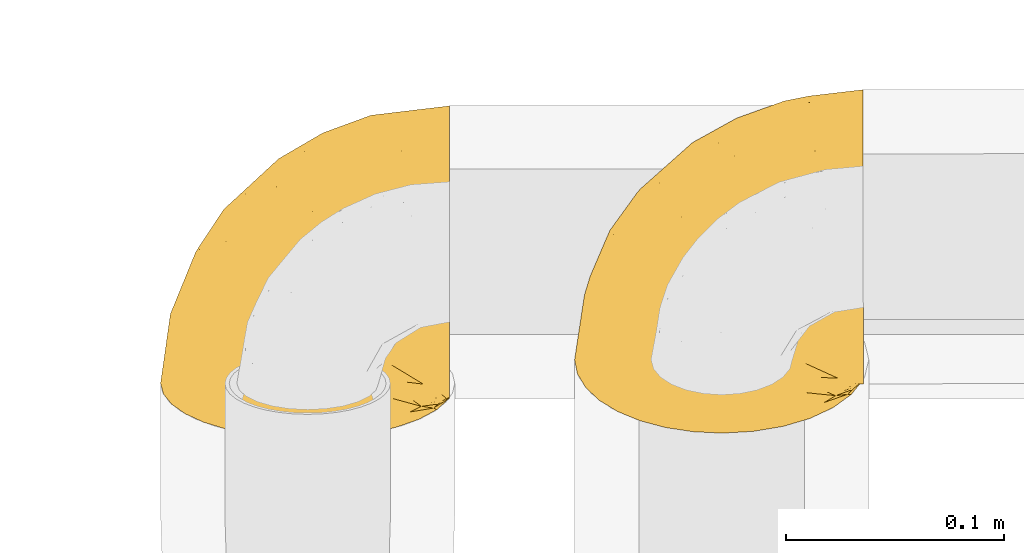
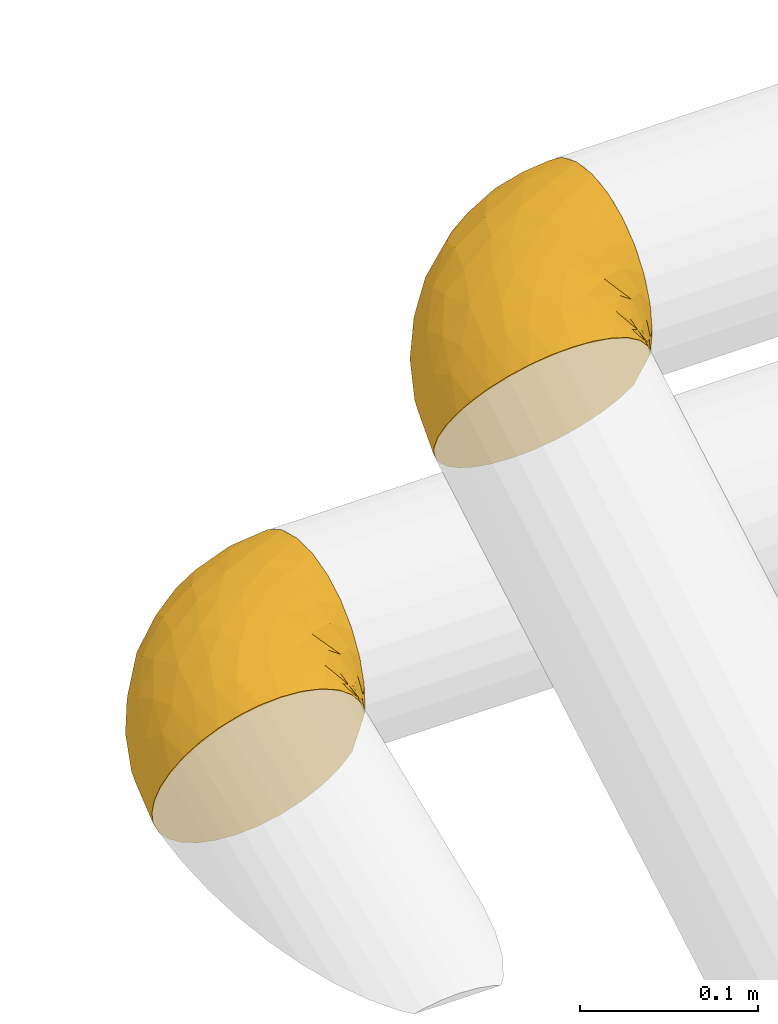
# One storey, part 18 of 156: 2 coverings.
"""IFC2X3 building model written with IfcOpenShell, lengths in millimetres."""

from ifc_helpers import new_model, entity, si_unit, converted_unit, derived_unit, direction, frame, origin_with_axes, place, context, subcontext, project, spatial, open_shell, surface_model, source, transform, mapped, element, save


model = new_model("IFC2X3")

# Units and contexts
model_context = context("Model", 3, precision=0.01, world=frame((0.0, 4.29681676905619e-09, 0.0)), true_north=direction((4.01073788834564e-13, 1.0)))
plan_context = context("Plan", 3, precision=0.01, world=frame((0.0, 4.29681676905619e-09, 0.0)), true_north=direction((4.01073788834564e-13, 1.0)))
body_context = subcontext(model_context, "Body", "Model", "MODEL_VIEW")
ifc_project = project(units=[converted_unit("PLANEANGLEUNIT", "DEGREE", entity("IfcPositiveLengthMeasure", 0.0174532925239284), si_unit("PLANEANGLEUNIT", "RADIAN"), dimensions=[0, 0, 0, 0, 0, 0, 0]), si_unit("AREAUNIT", "SQUARE_METRE"), si_unit("LENGTHUNIT", "METRE", prefix="MILLI"), si_unit("MASSUNIT", "GRAM", prefix="KILO"), si_unit("POWERUNIT", "WATT"), si_unit("PRESSUREUNIT", "PASCAL", prefix="KILO"), si_unit("FORCEUNIT", "NEWTON", prefix="KILO"), si_unit("ELECTRICVOLTAGEUNIT", "VOLT"), si_unit("ELECTRICCURRENTUNIT", "AMPERE"), si_unit("THERMODYNAMICTEMPERATUREUNIT", "DEGREE_CELSIUS"), si_unit("TIMEUNIT", "SECOND"), si_unit("VOLUMEUNIT", "CUBIC_METRE"), derived_unit("LINEARVELOCITYUNIT", [(si_unit("LENGTHUNIT", "METRE"), 1), (si_unit("TIMEUNIT", "SECOND"), -1)]), derived_unit("VOLUMETRICFLOWRATEUNIT", [(si_unit("VOLUMEUNIT", "CUBIC_METRE"), 1), (si_unit("TIMEUNIT", "SECOND"), -1)]), derived_unit("THERMALTRANSMITTANCEUNIT", [(si_unit("POWERUNIT", "WATT"), 1), (si_unit("THERMODYNAMICTEMPERATUREUNIT", "KELVIN"), -1), (si_unit("AREAUNIT", "SQUARE_METRE"), -1)]), derived_unit("SOUNDPRESSUREUNIT", [(si_unit("PRESSUREUNIT", "PASCAL"), 1)])], contexts=[model_context, plan_context])

# Site, building, storey
site_placement = place(None, frame((0.0, -4.29681676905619e-09, 0.0), z_axis=(0.0, 0.0, 1.0), x_axis=(1.0, 0.0, 0.0)))
site = spatial("IfcSite", under=ifc_project, at=site_placement, CompositionType="ELEMENT")
building_placement = place(site_placement, frame((0.0, 4.29681676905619e-09, 0.0), z_axis=(0.0, 0.0, 1.0), x_axis=(1.0, 0.0, 0.0)))
building = spatial("IfcBuilding", under=site, at=building_placement, Name="mc-building", CompositionType="ELEMENT")
storey_placement = place(building_placement, frame((0.0, 0.0, 205200.0), z_axis=(0.0, 0.0, 1.0), x_axis=(1.0, 0.0, 0.0)))
storey = spatial("IfcBuildingStorey", under=building, at=storey_placement, Name="Nivå D + 1,2 m", CompositionType="ELEMENT", Elevation=205200.0)

# Coverings
shared_shape_1 = source(origin_with_axes(), body_context, "Body", "SurfaceModel", [
    surface_model("IfcShellBasedSurfaceModel", [(62.36357, 65.0, 25.82703), (66.2036, 65.0, 13.1656), (47.7349, 65.0, 47.72452), (56.12755, 65.0, 37.49598), (-64.81475, 65.0, -18.84935), (-64.81475, 65.0, 18.84935), (-59.31267, 65.0, 32.22201), (-51.08854, 65.0, 44.11588), (66.20209, 65.0, -13.1732), (67.5, 65.0, 0.0), (-40.52239, 65.0, -53.98321), (-51.09064, 65.0, -44.11345), (-59.31419, 65.0, -32.21921), (-28.09443, 65.0, -61.37551), (-65.0, 64.81475, -18.84935), (-65.0, 57.87557, -34.73714), (-65.0, 47.11836, -48.33333), (-65.0, 33.25277, -58.74099), (-65.0, 17.19351, -65.27353), (-65.0, 33.25277, 58.74099), (-65.0, 0.0, 67.5), (-65.0, 17.19351, 65.27353), (-65.0, -58.45672, -33.75), (-65.0, -17.47029, -65.19999), (-65.0, -33.75, -58.45672), (-65.0, -67.5, 0.0), (-65.0, -47.72971, -47.72971), (-65.0, -65.19999, -17.47029), (-65.0, -33.75, 58.45672), (-65.0, -47.72971, 47.72971), (-65.0, -17.47029, 65.19999), (-65.0, -58.45672, 33.75), (-65.0, -65.19999, 17.47029), (-65.0, 64.81475, 18.84935), (-64.86901, 64.86901, 18.84935), (-64.86901, 64.86901, -18.84935), (-62.35297, 53.22925, -41.88204), (-63.78423, 60.63473, -29.99667), (-59.45918, 54.28289, -41.88204), (-51.69965, 42.79725, -55.00915), (-58.92632, 41.28656, -53.98417), (-64.97489, 64.82515, -18.84935), (-60.99561, 60.00362, -33.50592), (-62.83434, 60.76841, -30.4404), (-64.90176, 64.85544, -18.84935), (-50.86682, 28.04405, -62.52499), (-57.92381, 24.04777, -63.29908), (-50.90167, 14.37918, -66.34141), (-37.08653, 31.39033, -64.04773), (-29.58182, 11.99295, -67.5), (-40.36853, 19.80167, -66.13096), (-55.46376, 1.89688, -67.5), (-54.1914, 53.04137, -46.55035), (-23.48796, 51.53459, -64.03169), (-35.44219, 58.51372, -57.87452), (-14.37712, 65.0, -65.95111), (0.0, 65.0, -67.5), (-1.89688, 55.46376, -67.5), (-19.03806, 19.03806, -67.5), (-28.84083, 40.49015, -64.04563), (-45.93357, 58.13982, -50.54557), (-64.83555, 64.94978, -18.84935), (-43.55475, 44.96694, -57.31565), (-4.94783, 40.12558, -67.5), (-64.85228, 64.9094, -18.84935), (-55.95504, 62.1673, -38.38718), (-59.35288, 60.73167, -34.6609), (-37.17686, 51.38247, -58.29815), (-49.05026, 54.8073, -49.33215), (-11.99295, 29.58182, -67.5), (-64.9345, 64.84188, -18.84935), (-40.12558, 4.94783, -67.5), (-65.0, 0.0, -67.5), (-52.74634, 2.4374, -67.5), (-42.51157, -9.52295, -66.2671), (62.98517, 30.70648, 0.0), (60.34861, 32.11006, -19.59988), (7.28209, 26.69247, -65.37446), (17.51571, 46.37925, -64.59456), (25.45053, 30.47784, -59.53215), (-9.86721, -24.12514, -54.51842), (-12.17277, -41.13061, -41.0914), (-38.26551, -37.66767, -53.55135), (-32.07934, -19.65533, -62.36187), (-9.01246, -1.18966, -63.9192), (38.39188, 36.73619, -52.6938), (30.43395, 48.7077, -59.53215), (-49.4847, -21.90434, -63.359), (28.69165, -28.69165, 0.0), (38.50326, -14.42084, -16.45739), (49.74837, -1.25, 0.0), (25.82703, 65.0, -62.36357), (13.1656, 65.0, -66.2036), (-26.34544, -2.34013, -66.30486), (62.35913, 65.0, -25.83774), (-28.9987, -57.16772, -25.83113), (-40.01142, -50.88785, -41.0914), (-40.23864, -63.93244, -12.73067), (13.27406, -37.00874, -22.67012), (18.34903, -3.39087, -52.18245), (35.48999, 13.46262, -47.52341), (28.03747, -10.89182, -39.04005), (-2.47392, 52.56279, -67.5), (13.31742, 11.06376, -60.42055), (47.72452, 65.0, -47.7349), (56.11983, 65.0, -37.50754), (48.33699, 35.26235, -42.82742), (1.25, -49.74837, 0.0), (55.58243, 33.90777, -31.82524), (47.1962, 10.97433, -31.82591), (10.54857, -30.74404, -36.21718), (1.99991, -27.22627, -46.43081), (-14.75381, -56.30503, -12.67322), (-7.01775, -49.35414, -23.6696), (51.32465, 7.6704, -19.29111), (-30.70648, -62.98517, 0.0), (0.244, 12.31909, -64.81242), (3.6701, -5.45972, -58.66435), (37.49598, 65.0, -56.12755), (36.98055, -9.37937, -28.42458), (48.52829, 33.96524, 42.18547), (51.34601, 20.59434, 31.81466), (57.75615, 44.0433, 31.81466), (-28.34115, -60.77084, 14.13005), (-16.26073, -52.66703, 25.83113), (-42.88385, -60.42696, 25.83113), (37.5083, -13.65738, 20.81995), (22.2387, 22.99208, 59.52614), (16.82988, 43.52884, 64.59175), (5.27267, 25.31169, 65.6474), (35.12366, 13.6505, 47.93511), (15.62004, -0.76277, 55.06473), (25.58961, -9.33201, 42.81638), (-34.31666, -49.51181, 41.0914), (-2.14331, -36.32511, 40.18049), (-17.725, -29.97609, 53.55135), (-5.8464, -51.68872, 14.94009), (14.49533, -38.60032, 15.96281), (39.0394, -2.37839, 32.87761), (-42.65822, -9.03699, 66.36346), (-39.32482, -22.1268, 62.36187), (-52.74634, 2.4374, 67.5), (18.51015, -28.28032, 30.53115), (-42.63776, -38.70783, 53.55135), (52.44199, 9.85636, 19.0918), (61.41574, 36.47263, 19.59063), (39.29703, 37.63428, 52.17338), (37.50754, 65.0, 56.11983), (25.83774, 65.0, 62.35913), (13.1732, 65.0, 66.20209), (28.75854, 40.82432, 59.5265), (-0.80851, -10.86712, 58.08848), (-25.06949, -14.2506, 63.18685), (-6.08758, 12.63645, 66.07007), (-29.58182, 11.99295, 67.5), (-27.583, -2.4399, 66.40218), (-40.12558, 4.94783, 67.5), (-2.47392, 52.56279, 67.5), (-4.94783, 40.12558, 67.5), (8.13231, 9.85971, 62.04196), (4.6081, -20.53967, 50.05704), (-11.99295, 29.58182, 67.5), (-19.03806, 19.03806, 67.5), (-12.13012, -4.71198, 63.64217), (0.0, 65.0, 67.5), (-55.46376, 1.89688, 67.5), (-51.31051, 50.10809, 50.51452), (-58.83063, 56.06256, 40.31262), (-53.07544, 43.62194, 53.98417), (-61.39668, 53.48595, 41.88204), (-59.33203, 41.18634, 53.98417), (-65.0, 47.11836, 48.33333), (-38.67692, 30.21324, 64.02579), (-40.80843, 18.77841, 66.26938), (-53.18292, 27.23963, 62.52499), (-62.39323, 61.71268, 29.30964), (-62.71992, 60.35042, 31.2673), (-24.35909, 37.3903, 65.60842), (-55.876, 57.84764, 41.27918), (-48.33586, 52.86998, 50.85179), (-52.15697, 58.33043, 44.75633), (-65.0, 57.87557, 34.73714), (-50.72259, 13.73618, 66.46323), (-63.72097, 60.14876, 30.95628), (-23.37818, 51.86775, 64.03271), (-1.89688, 55.46376, 67.5), (-14.37401, 65.0, 65.95178), (-38.9734, 49.10623, 58.01476), (-28.09151, 65.0, 61.37685), (-40.51981, 65.0, 53.98514), (-36.16929, 55.0609, 58.01476), (-61.49541, 62.05581, 30.08872), (-64.85228, 64.9094, 18.84935), (-46.94651, 59.30387, 49.33434), (-64.83555, 64.94978, 18.84935), (-57.76525, 62.98421, 35.37213), (-59.8704, 62.17048, 32.53464), (-45.47025, 40.87928, 58.33251), (-64.9094, 64.85228, 18.84935), (-64.94978, 64.83555, 18.84935)], [open_shell([[[0, 1, 2]], [[2, 3, 0]], [[4, 5, 6]], [[6, 7, 4]], [[8, 4, 9]], [[10, 11, 4]], [[12, 4, 11]], [[10, 4, 13]], [[14, 15, 16]], [[16, 17, 18]], [[19, 20, 21]], [[22, 23, 24]], [[23, 22, 25]], [[22, 24, 26]], [[27, 25, 22]], [[28, 25, 29]], [[30, 20, 28]], [[31, 25, 32]], [[25, 31, 29]], [[14, 33, 34]], [[35, 14, 34]], [[5, 4, 34]], [[35, 34, 4]], [[36, 37, 38]], [[39, 40, 38]], [[15, 14, 41]], [[36, 40, 16]], [[42, 43, 44]], [[40, 45, 46]], [[18, 46, 47]], [[48, 49, 50]], [[47, 46, 45]], [[18, 47, 51]], [[38, 52, 39]], [[13, 53, 54]], [[15, 36, 16]], [[55, 56, 57]], [[58, 48, 59]], [[60, 10, 54]], [[10, 60, 11]], [[40, 17, 16]], [[40, 39, 45]], [[61, 4, 12]], [[42, 52, 38]], [[48, 62, 59]], [[63, 53, 57]], [[64, 65, 66]], [[12, 65, 61]], [[55, 57, 53]], [[55, 53, 13]], [[47, 45, 50]], [[53, 67, 54]], [[12, 11, 65]], [[66, 68, 52]], [[39, 48, 45]], [[62, 39, 52]], [[67, 62, 68]], [[41, 37, 15]], [[40, 36, 38]], [[52, 42, 66]], [[62, 52, 68]], [[64, 61, 65]], [[65, 68, 66]], [[59, 67, 53]], [[39, 62, 48]], [[59, 63, 69]], [[37, 41, 70]], [[51, 47, 71]], [[51, 72, 18]], [[50, 45, 48]], [[66, 35, 64]], [[71, 47, 50]], [[43, 38, 37]], [[35, 66, 42]], [[62, 67, 59]], [[60, 54, 67]], [[67, 68, 60]], [[13, 54, 10]], [[68, 65, 60]], [[11, 60, 65]], [[37, 70, 43]], [[15, 37, 36]], [[44, 35, 42]], [[42, 38, 43]], [[43, 70, 44]], [[18, 17, 46]], [[40, 46, 17]], [[49, 48, 58]], [[49, 71, 50]], [[63, 59, 53]], [[69, 58, 59]], [[73, 74, 23]], [[73, 71, 74]], [[8, 75, 76]], [[77, 78, 79]], [[80, 81, 82]], [[80, 83, 84]], [[85, 79, 86]], [[74, 87, 23]], [[88, 89, 90]], [[91, 78, 92]], [[58, 84, 93]], [[94, 8, 76]], [[95, 22, 96]], [[27, 97, 25]], [[89, 88, 98]], [[22, 95, 27]], [[22, 26, 96]], [[24, 82, 26]], [[87, 82, 24]], [[99, 100, 101]], [[56, 92, 102]], [[79, 100, 103]], [[104, 105, 106]], [[85, 104, 106]], [[88, 107, 98]], [[108, 76, 109]], [[86, 78, 91]], [[92, 78, 102]], [[110, 81, 111]], [[112, 97, 95]], [[98, 107, 112]], [[113, 81, 110]], [[90, 89, 114]], [[112, 107, 115]], [[85, 100, 79]], [[114, 75, 90]], [[94, 108, 105]], [[116, 117, 84]], [[8, 9, 75]], [[106, 108, 109]], [[99, 103, 100]], [[77, 63, 78]], [[80, 82, 83]], [[118, 86, 91]], [[96, 82, 81]], [[116, 69, 77]], [[98, 110, 119]], [[76, 114, 109]], [[93, 83, 74]], [[111, 101, 110]], [[77, 103, 116]], [[103, 77, 79]], [[118, 104, 85]], [[78, 86, 79]], [[85, 86, 118]], [[85, 106, 100]], [[106, 109, 100]], [[101, 100, 109]], [[119, 101, 109]], [[101, 119, 110]], [[82, 96, 26]], [[95, 96, 81]], [[23, 72, 73]], [[93, 74, 71]], [[74, 83, 87]], [[93, 71, 49]], [[83, 93, 84]], [[82, 87, 83]], [[24, 23, 87]], [[117, 103, 99]], [[103, 117, 116]], [[97, 112, 115]], [[113, 112, 95]], [[25, 97, 115]], [[95, 97, 27]], [[111, 117, 99]], [[58, 93, 49]], [[80, 84, 117]], [[84, 58, 116]], [[114, 76, 75]], [[81, 113, 95]], [[98, 112, 113]], [[105, 108, 106]], [[94, 76, 108]], [[78, 63, 102]], [[69, 116, 58]], [[69, 63, 77]], [[119, 114, 89]], [[114, 119, 109]], [[98, 119, 89]], [[113, 110, 98]], [[111, 81, 80]], [[117, 111, 80]], [[101, 111, 99]], [[120, 121, 122]], [[25, 115, 123]], [[123, 124, 125]], [[90, 126, 88]], [[127, 128, 129]], [[130, 131, 132]], [[133, 134, 135]], [[136, 137, 124]], [[132, 138, 130]], [[107, 88, 137]], [[139, 30, 140]], [[30, 139, 141]], [[142, 137, 126]], [[143, 140, 28]], [[28, 29, 143]], [[125, 31, 32]], [[130, 138, 121]], [[31, 125, 133]], [[28, 140, 30]], [[88, 126, 137]], [[121, 144, 145]], [[143, 133, 135]], [[120, 2, 146]], [[138, 126, 144]], [[1, 0, 145]], [[2, 147, 146]], [[128, 148, 149]], [[145, 0, 122]], [[9, 1, 75]], [[148, 150, 147]], [[151, 152, 135]], [[31, 133, 29]], [[153, 154, 155]], [[128, 127, 150]], [[156, 139, 155]], [[130, 121, 120]], [[149, 157, 128]], [[144, 75, 145]], [[129, 128, 158]], [[150, 127, 146]], [[75, 1, 145]], [[138, 144, 121]], [[131, 127, 159]], [[3, 122, 0]], [[134, 133, 124]], [[135, 134, 160]], [[142, 132, 134]], [[136, 124, 123]], [[142, 124, 137]], [[160, 132, 131]], [[3, 2, 120]], [[145, 122, 121]], [[120, 122, 3]], [[120, 146, 130]], [[146, 127, 130]], [[131, 130, 127]], [[159, 127, 129]], [[151, 135, 160]], [[153, 161, 162]], [[129, 153, 159]], [[133, 143, 29]], [[140, 143, 135]], [[141, 139, 156]], [[141, 20, 30]], [[155, 152, 163]], [[152, 139, 140]], [[155, 163, 153]], [[126, 90, 144]], [[154, 156, 155]], [[75, 144, 90]], [[142, 126, 138]], [[124, 142, 134]], [[139, 152, 155]], [[135, 152, 140]], [[32, 25, 123]], [[133, 125, 124]], [[32, 123, 125]], [[136, 115, 107]], [[115, 136, 123]], [[107, 137, 136]], [[161, 153, 129]], [[151, 159, 163]], [[153, 162, 154]], [[163, 159, 153]], [[132, 160, 134]], [[151, 160, 131]], [[159, 151, 131]], [[151, 163, 152]], [[147, 150, 146]], [[148, 128, 150]], [[157, 149, 164]], [[157, 158, 128]], [[142, 138, 132]], [[129, 158, 161]], [[21, 20, 165]], [[166, 167, 168]], [[168, 169, 170]], [[170, 171, 19]], [[172, 173, 154]], [[172, 168, 174]], [[167, 175, 176]], [[177, 172, 162]], [[170, 19, 174]], [[178, 179, 180]], [[167, 169, 168]], [[169, 181, 171]], [[174, 182, 173]], [[183, 169, 176]], [[184, 185, 186]], [[187, 180, 179]], [[188, 189, 190]], [[34, 191, 192]], [[177, 184, 187]], [[190, 189, 193]], [[6, 5, 194]], [[184, 177, 158]], [[19, 21, 174]], [[195, 7, 6]], [[186, 185, 164]], [[193, 189, 7]], [[166, 178, 167]], [[187, 184, 190]], [[191, 178, 196]], [[188, 184, 186]], [[182, 165, 156]], [[33, 181, 183]], [[187, 179, 197]], [[168, 170, 174]], [[158, 185, 184]], [[169, 171, 170]], [[177, 187, 197]], [[177, 162, 161]], [[34, 175, 191]], [[175, 178, 191]], [[173, 182, 156]], [[165, 182, 21]], [[21, 182, 174]], [[154, 162, 172]], [[174, 173, 172]], [[173, 156, 154]], [[197, 166, 168]], [[179, 178, 166]], [[168, 172, 197]], [[197, 172, 177]], [[197, 179, 166]], [[180, 187, 193]], [[195, 180, 193]], [[196, 194, 192]], [[7, 195, 193]], [[6, 194, 195]], [[178, 180, 196]], [[180, 195, 196]], [[194, 196, 195]], [[192, 191, 196]], [[175, 167, 178]], [[34, 198, 175]], [[199, 183, 176]], [[176, 175, 198]], [[199, 176, 198]], [[169, 167, 176]], [[33, 183, 199]], [[181, 169, 183]], [[190, 184, 188]], [[193, 187, 190]], [[158, 177, 161]], [[1, 147, 2]], [[56, 13, 4]], [[55, 13, 56]], [[56, 4, 92]], [[23, 25, 28]], [[148, 164, 149]], [[1, 148, 147]], [[186, 148, 1]], [[186, 189, 188]], [[186, 164, 148]], [[189, 186, 7]], [[7, 186, 1]], [[7, 1, 9]], [[94, 4, 8]], [[105, 104, 118]], [[105, 118, 4]], [[94, 105, 4]], [[92, 118, 91]], [[4, 118, 92]], [[9, 4, 7]], [[14, 16, 20]], [[20, 16, 18]], [[181, 20, 171]], [[181, 33, 14]], [[20, 19, 171]], [[14, 20, 181]], [[18, 23, 20]], [[20, 23, 28]], [[23, 18, 72]]])]),
])
covering_1_placement = place(storey_placement, frame((326217.42979, 460512.28647, 4048.81464), z_axis=(0.0, -0.37460689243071, 0.927183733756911), x_axis=(-1.0, 0.0, 0.0)))
element("IfcCovering", 1, at=covering_1_placement, inside=storey, Name="BI10T - Cellegummi 18-32 mm kalde rør", PredefinedType="INSULATION", context=body_context, shape_type="MappedRepresentation", body=[
    mapped(shared_shape_1, transform((0.0, 0.0, 0.0), scale=1.0)),
])
shared_shape_2 = source(origin_with_axes(), body_context, "Body", "SurfaceModel", [
    surface_model("IfcShellBasedSurfaceModel", [(-59.18922, 64.98919, 32.22201), (-64.6913, 64.99965, -18.84935), (-64.6913, 64.99965, 18.84935), (-50.96512, 64.97355, 44.11588), (-14.25065, 64.90376, 65.95178), (0.12333, 64.87643, 67.5), (-27.96812, 64.92983, 61.37685), (-40.3964, 64.95346, 53.98514), (-50.96722, 64.97356, -44.11345), (-59.19075, 64.98919, -32.21921), (-40.39898, 64.95347, -53.98321), (-27.97104, 64.92984, -61.37551), (0.12333, 64.87643, -67.5), (-14.25376, 64.90376, -65.95111), (13.28891, 64.8514, -66.2036), (13.29651, 64.85139, 66.20209), (25.96103, 64.82731, 62.35913), (66.32682, 64.75058, 13.1656), (37.6308, 64.80513, 56.11983), (47.85814, 64.78568, 47.72452), (56.25078, 64.76973, 37.49598), (62.48679, 64.75788, 25.82703), (66.3253, 64.75058, -13.1732), (56.24306, 64.76974, -37.50754), (47.84777, 64.7857, -47.7349), (37.61924, 64.80515, -56.12755), (25.95032, 64.82733, -62.36357), (62.48235, 64.75788, -25.83774), (67.62321, 64.74811, 0.0), (-64.87655, 64.81475, 18.84935), (-64.87655, 64.81475, -18.84935), (-64.87655, 57.87557, -34.73714), (-64.87655, 47.11836, 48.33333), (-64.87655, 33.25277, -58.74099), (-64.87655, 47.11836, -48.33333), (-64.87655, -17.47029, -65.19999), (-64.87655, 57.87557, 34.73714), (-64.87655, 17.19351, 65.27353), (-64.87655, 33.25277, 58.74099), (-64.87655, 0.0, 67.5), (-64.87655, -33.75, 58.45672), (-64.87655, 0.0, -67.5), (-64.87655, 17.19351, -65.27353), (-64.87655, -67.5, 0.0), (-64.87655, -58.45672, -33.75), (-64.87655, -33.75, -58.45672), (-64.87655, -47.72971, -47.72971), (-64.87655, -65.19999, -17.47029), (-64.87655, -47.72971, 47.72971), (-64.87655, -17.47029, 65.19999), (-64.87655, -58.45672, 33.75), (-64.87655, -65.19999, 17.47029), (-64.74568, 64.86888, 18.84935), (-64.74568, 64.86888, -18.84935), (-62.23187, 53.22873, -41.88204), (-63.66126, 60.63243, -30.00087), (-59.33973, 54.28082, -41.88204), (-51.57524, 42.79908, -55.00839), (-58.80311, 41.2865, -53.98417), (-64.85143, 64.82514, -18.84935), (-60.87448, 59.99932, -33.50924), (-62.71252, 60.76981, -30.43646), (-64.7784, 64.85535, -18.84935), (-50.74459, 28.04359, -62.52499), (-57.80711, 24.06197, -63.29347), (-50.79245, 14.38376, -66.33987), (-36.97159, 31.38865, -64.04635), (-29.49449, 11.9652, -67.5), (-40.24526, 19.78821, -66.13336), (-55.33971, 1.89464, -67.5), (-54.08526, 53.03736, -46.5413), (-23.38889, 51.45966, -64.03169), (-35.25608, 58.47961, -57.91561), (-1.78943, 55.34321, -67.5), (-18.95832, 18.99439, -67.5), (-28.83192, 40.51556, -64.00922), (-45.94476, 58.21253, -50.41125), (-64.71217, 64.94946, -18.84935), (-4.85991, 40.03998, -67.5), (-11.90911, 29.51719, -67.5), (-64.72893, 64.90917, -18.84935), (-55.83699, 62.15011, -38.38718), (-59.236, 60.72785, -34.65599), (-37.10461, 51.40242, -58.26615), (-48.94353, 54.78117, -49.33215), (-43.47754, 44.94918, -57.30219), (-64.81111, 64.84182, -18.84935), (-40.03067, 4.93602, -67.5), (-52.62212, 2.43453, -67.5), (-42.40388, -9.53478, -66.26579), (63.05414, 30.50376, 0.0), (60.40989, 31.87403, -19.59988), (7.32434, 26.54965, -65.37567), (17.60402, 46.22421, -64.59456), (25.51012, 30.31097, -59.53215), (-9.71918, -24.11629, -54.51447), (-12.13963, -41.17552, -41.0914), (-38.14291, -37.66789, -53.55135), (-31.95811, -19.65619, -62.36187), (-8.89691, -1.20123, -63.91793), (38.46276, 36.54407, -52.69369), (30.52675, 48.52915, -59.53215), (28.726, -28.78066, 0.0), (1.30072, -49.79032, 0.0), (13.31601, -37.06983, -22.67323), (38.54076, -14.53725, -16.44641), (49.78776, -1.39538, 0.0), (-26.23544, -2.33943, -66.30625), (-28.91467, -57.17933, -25.83113), (-39.94123, -50.89932, -41.0914), (-40.15106, -63.94185, -12.71778), (-49.36695, -21.92019, -63.35363), (18.35044, -3.53933, -52.18245), (35.51829, 13.28026, -47.52469), (28.02446, -11.0557, -39.04282), (-2.36829, 52.45821, -67.5), (13.34251, 10.92067, -60.4204), (48.40423, 35.04893, -42.82742), (55.64786, 33.6836, -31.82524), (47.21897, 10.76575, -31.82591), (10.54919, -30.85315, -36.20195), (2.05488, -27.29592, -46.41377), (-14.68808, -56.32876, -12.67398), (-6.95938, -49.39202, -23.65792), (51.3531, 7.49194, -19.31177), (-30.62358, -62.99603, 0.0), (0.34862, 12.23053, -64.80047), (3.69958, -5.56509, -58.65867), (36.96356, -9.57285, -28.42292), (48.59377, 33.75435, 42.1856), (51.38732, 20.3797, 31.81466), (57.84018, 43.81363, 31.81466), (-28.23309, -60.77562, 14.12869), (-16.1559, -52.67474, 25.83113), (-42.77142, -60.4289, 25.83113), (37.55093, -13.77598, 20.79476), (22.28387, 22.8299, 59.52614), (16.91275, 43.37476, 64.59175), (5.3086, 25.17388, 65.64938), (35.15455, 13.46764, 47.93385), (15.6287, -0.90761, 55.06277), (25.58041, -9.49338, 42.81638), (14.53952, -38.66696, 15.94366), (-5.78141, -51.71445, 14.95536), (39.03887, -2.57361, 32.87353), (-1.99852, -36.30838, 40.18449), (-17.68237, -30.01628, 53.55135), (-34.19924, -49.51343, 41.0914), (-42.55118, -9.04622, 66.3627), (-39.22949, -22.13508, 62.36187), (-52.62212, 2.43453, 67.5), (18.56472, -28.36656, 30.49493), (-42.56198, -38.7181, 53.55135), (-27.46608, -2.43929, 66.40286), (-40.03067, 4.93602, 67.5), (61.48535, 36.2351, 19.59063), (52.47943, 9.68785, 19.11247), (39.36875, 37.43789, 52.17338), (28.83688, 40.65002, 59.5265), (-0.77801, -10.95394, 58.08474), (-24.97296, -14.25838, 63.18879), (-6.05806, 12.5156, 66.06792), (-29.49449, 11.9652, 67.5), (-2.36829, 52.45821, 67.5), (-4.85991, 40.03998, 67.5), (8.15181, 9.72148, 62.0418), (4.60479, -20.6183, 50.07414), (-11.90911, 29.51719, 67.5), (-18.95832, 18.99439, 67.5), (-12.01101, -4.74103, 63.63491), (-55.33971, 1.89464, 67.5), (-51.1851, 50.07398, 50.53794), (-58.69923, 56.02966, 40.35502), (-52.97444, 43.60943, 53.98417), (-61.27811, 53.48443, 41.88204), (-59.21089, 41.18578, 53.98417), (-38.57644, 30.21831, 64.01981), (-40.6901, 18.77032, 66.27031), (-53.07547, 27.23463, 62.52499), (-62.29143, 61.71924, 29.27109), (-62.611, 60.30712, 31.32955), (-24.29729, 37.32859, 65.60449), (-55.76235, 57.82819, 41.28473), (-48.2351, 52.85539, 50.84329), (-52.06853, 58.32229, 44.72548), (-50.61238, 13.73658, 66.46253), (-63.63661, 60.13903, 30.95551), (-23.28088, 51.78517, 64.03271), (-1.78943, 55.34321, 67.5), (-38.88322, 49.05187, 58.01476), (-36.06656, 55.001, 58.01476), (-61.36874, 62.0384, 30.11616), (-64.72893, 64.90917, 18.84935), (-46.8344, 59.26806, 49.33434), (-64.71217, 64.94946, 18.84935), (-57.64324, 62.97727, 35.37291), (-59.75853, 62.15968, 32.52571), (-45.38507, 40.85194, 58.33088), (-64.82632, 64.83553, 18.84935), (-64.786, 64.85221, 18.84935)], [open_shell([[[0, 1, 2]], [[3, 1, 0]], [[4, 5, 6]], [[1, 7, 6]], [[7, 1, 3]], [[1, 6, 5]], [[1, 8, 9]], [[8, 1, 10]], [[10, 1, 11]], [[12, 13, 11]], [[1, 12, 11]], [[12, 1, 14]], [[1, 5, 15]], [[1, 16, 17]], [[17, 16, 18]], [[19, 20, 17]], [[21, 17, 20]], [[19, 17, 18]], [[17, 22, 1]], [[23, 24, 25]], [[25, 26, 23]], [[14, 23, 26]], [[14, 1, 23]], [[27, 23, 22]], [[22, 23, 1]], [[17, 28, 22]], [[1, 15, 16]], [[29, 30, 31]], [[32, 31, 33]], [[33, 31, 34]], [[35, 32, 33]], [[29, 32, 36]], [[29, 31, 32]], [[32, 37, 38]], [[37, 32, 39]], [[32, 40, 39]], [[41, 33, 42]], [[35, 43, 32]], [[44, 35, 45]], [[35, 44, 43]], [[44, 45, 46]], [[47, 43, 44]], [[40, 43, 48]], [[49, 39, 40]], [[50, 43, 51]], [[43, 50, 48]], [[43, 40, 32]], [[35, 33, 41]], [[30, 29, 52]], [[53, 30, 52]], [[2, 1, 52]], [[53, 52, 1]], [[54, 55, 56]], [[57, 58, 56]], [[31, 30, 59]], [[54, 58, 34]], [[60, 61, 62]], [[58, 63, 64]], [[42, 64, 65]], [[66, 67, 68]], [[65, 64, 63]], [[42, 65, 69]], [[56, 70, 57]], [[11, 71, 72]], [[31, 54, 34]], [[13, 12, 73]], [[74, 66, 75]], [[76, 10, 72]], [[10, 76, 8]], [[58, 33, 34]], [[58, 57, 63]], [[77, 1, 9]], [[60, 70, 56]], [[75, 78, 79]], [[78, 71, 73]], [[80, 81, 82]], [[9, 81, 77]], [[13, 73, 71]], [[13, 71, 11]], [[65, 63, 68]], [[71, 83, 72]], [[9, 8, 81]], [[82, 84, 70]], [[57, 66, 63]], [[85, 57, 70]], [[66, 85, 75]], [[59, 55, 31]], [[58, 54, 56]], [[70, 60, 82]], [[85, 70, 84]], [[80, 77, 81]], [[81, 84, 82]], [[75, 83, 71]], [[57, 85, 66]], [[83, 85, 84]], [[55, 59, 86]], [[69, 65, 87]], [[69, 41, 42]], [[68, 63, 66]], [[82, 53, 80]], [[87, 65, 68]], [[61, 56, 55]], [[53, 82, 60]], [[85, 83, 75]], [[76, 72, 83]], [[83, 84, 76]], [[11, 72, 10]], [[84, 81, 76]], [[8, 76, 81]], [[55, 86, 61]], [[31, 55, 54]], [[62, 53, 60]], [[60, 56, 61]], [[61, 86, 62]], [[42, 33, 64]], [[58, 64, 33]], [[67, 66, 74]], [[67, 87, 68]], [[78, 75, 71]], [[79, 74, 75]], [[88, 89, 35]], [[88, 87, 89]], [[22, 90, 91]], [[92, 93, 94]], [[95, 96, 97]], [[95, 98, 99]], [[100, 94, 101]], [[102, 103, 104]], [[102, 105, 106]], [[26, 93, 14]], [[74, 99, 107]], [[27, 22, 91]], [[108, 44, 109]], [[47, 110, 43]], [[105, 102, 104]], [[44, 108, 47]], [[44, 46, 109]], [[45, 97, 46]], [[111, 97, 45]], [[112, 113, 114]], [[115, 12, 14]], [[94, 113, 116]], [[24, 23, 117]], [[100, 24, 117]], [[35, 89, 111]], [[118, 91, 119]], [[101, 93, 26]], [[14, 93, 115]], [[120, 96, 121]], [[122, 110, 108]], [[104, 103, 122]], [[123, 96, 120]], [[106, 105, 124]], [[122, 103, 125]], [[100, 113, 94]], [[124, 90, 106]], [[118, 23, 27]], [[126, 127, 99]], [[22, 28, 90]], [[117, 118, 119]], [[112, 116, 113]], [[92, 78, 93]], [[95, 97, 98]], [[25, 101, 26]], [[109, 97, 96]], [[126, 79, 92]], [[104, 120, 128]], [[91, 124, 119]], [[107, 98, 89]], [[121, 114, 120]], [[92, 116, 126]], [[116, 92, 94]], [[25, 24, 100]], [[93, 101, 94]], [[100, 101, 25]], [[100, 117, 113]], [[117, 119, 113]], [[114, 113, 119]], [[128, 114, 119]], [[114, 128, 120]], [[97, 109, 46]], [[108, 109, 96]], [[35, 41, 88]], [[107, 89, 87]], [[89, 98, 111]], [[107, 87, 67]], [[98, 107, 99]], [[97, 111, 98]], [[45, 35, 111]], [[127, 116, 112]], [[116, 127, 126]], [[110, 122, 125]], [[123, 122, 108]], [[43, 110, 125]], [[108, 110, 47]], [[121, 127, 112]], [[74, 107, 67]], [[95, 99, 127]], [[99, 74, 126]], [[124, 91, 90]], [[96, 123, 108]], [[104, 122, 123]], [[23, 118, 117]], [[27, 91, 118]], [[93, 78, 115]], [[79, 126, 74]], [[79, 78, 92]], [[128, 124, 105]], [[124, 128, 119]], [[104, 128, 105]], [[123, 120, 104]], [[121, 96, 95]], [[127, 121, 95]], [[114, 121, 112]], [[129, 130, 131]], [[43, 125, 132]], [[133, 134, 132]], [[106, 135, 102]], [[136, 137, 138]], [[139, 140, 141]], [[102, 142, 103]], [[143, 142, 133]], [[141, 144, 139]], [[145, 146, 147]], [[148, 49, 149]], [[49, 148, 150]], [[151, 142, 135]], [[152, 149, 40]], [[40, 48, 152]], [[153, 154, 148]], [[139, 144, 130]], [[50, 134, 147]], [[40, 149, 49]], [[102, 135, 142]], [[155, 130, 156]], [[152, 147, 146]], [[129, 19, 157]], [[144, 135, 156]], [[17, 21, 155]], [[19, 18, 157]], [[137, 16, 15]], [[155, 21, 131]], [[28, 17, 90]], [[158, 18, 16]], [[159, 160, 146]], [[50, 147, 48]], [[161, 162, 153]], [[137, 136, 158]], [[50, 51, 134]], [[139, 130, 129]], [[15, 163, 137]], [[156, 90, 155]], [[138, 137, 164]], [[158, 136, 157]], [[90, 17, 155]], [[144, 156, 130]], [[140, 136, 165]], [[20, 131, 21]], [[145, 147, 133]], [[146, 145, 166]], [[151, 141, 145]], [[143, 133, 132]], [[151, 133, 142]], [[166, 141, 140]], [[20, 19, 129]], [[155, 131, 130]], [[129, 131, 20]], [[129, 157, 139]], [[157, 136, 139]], [[140, 139, 136]], [[165, 136, 138]], [[159, 146, 166]], [[161, 167, 168]], [[138, 161, 165]], [[147, 152, 48]], [[149, 152, 146]], [[150, 148, 154]], [[150, 39, 49]], [[153, 160, 169]], [[160, 148, 149]], [[153, 169, 161]], [[135, 106, 156]], [[162, 154, 153]], [[90, 156, 106]], [[151, 135, 144]], [[133, 151, 145]], [[148, 160, 153]], [[146, 160, 149]], [[51, 43, 132]], [[147, 134, 133]], [[51, 132, 134]], [[143, 125, 103]], [[125, 143, 132]], [[103, 142, 143]], [[167, 161, 138]], [[159, 165, 169]], [[161, 168, 162]], [[169, 165, 161]], [[141, 166, 145]], [[159, 166, 140]], [[165, 159, 140]], [[159, 169, 160]], [[18, 158, 157]], [[16, 137, 158]], [[163, 15, 5]], [[163, 164, 137]], [[151, 144, 141]], [[138, 164, 167]], [[37, 39, 170]], [[171, 172, 173]], [[173, 174, 175]], [[175, 32, 38]], [[176, 177, 162]], [[176, 173, 178]], [[179, 180, 172]], [[181, 176, 168]], [[175, 38, 178]], [[182, 183, 184]], [[172, 174, 173]], [[174, 36, 32]], [[178, 185, 177]], [[186, 174, 180]], [[187, 188, 4]], [[189, 184, 183]], [[6, 7, 190]], [[52, 191, 192]], [[181, 187, 189]], [[190, 7, 193]], [[0, 2, 194]], [[187, 181, 164]], [[38, 37, 178]], [[195, 3, 0]], [[4, 188, 5]], [[193, 7, 3]], [[171, 182, 172]], [[189, 187, 190]], [[191, 182, 196]], [[6, 187, 4]], [[185, 170, 154]], [[29, 36, 186]], [[189, 183, 197]], [[173, 175, 178]], [[164, 188, 187]], [[174, 32, 175]], [[181, 189, 197]], [[181, 168, 167]], [[52, 179, 191]], [[179, 182, 191]], [[177, 185, 154]], [[170, 185, 37]], [[37, 185, 178]], [[162, 168, 176]], [[178, 177, 176]], [[177, 154, 162]], [[197, 171, 173]], [[183, 182, 171]], [[173, 176, 197]], [[197, 176, 181]], [[197, 183, 171]], [[184, 189, 193]], [[195, 184, 193]], [[196, 194, 192]], [[3, 195, 193]], [[0, 194, 195]], [[182, 184, 196]], [[184, 195, 196]], [[194, 196, 195]], [[192, 191, 196]], [[198, 186, 180]], [[179, 172, 182]], [[52, 199, 179]], [[180, 179, 199]], [[198, 180, 199]], [[174, 172, 180]], [[29, 186, 198]], [[36, 174, 186]], [[190, 187, 6]], [[193, 189, 190]], [[164, 181, 167]]])]),
])
covering_2_placement = place(storey_placement, frame((326407.42979, 460519.07185, 4232.60000000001), z_axis=(0.00109799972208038, -0.499999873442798, 0.866024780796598), x_axis=(-0.999997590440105, -0.00219524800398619, 4.31110314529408e-07)))
element("IfcCovering", 2, at=covering_2_placement, inside=storey, Name="BI10T - Cellegummi 18-32 mm kalde rør", PredefinedType="INSULATION", context=body_context, shape_type="MappedRepresentation", body=[
    mapped(shared_shape_2, transform((0.0, 0.0, 0.0), scale=1.0)),
])

save(model, "model.ifc")
